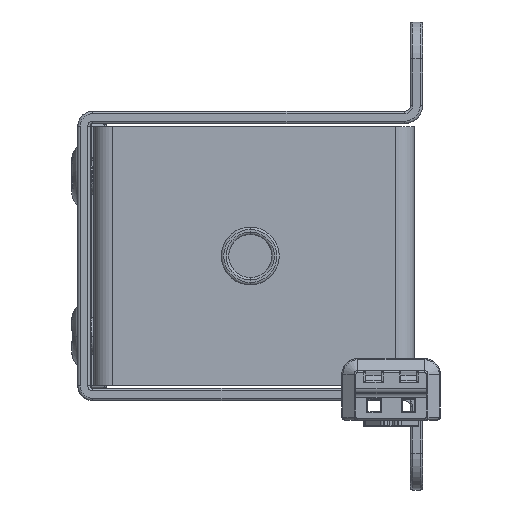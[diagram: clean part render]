
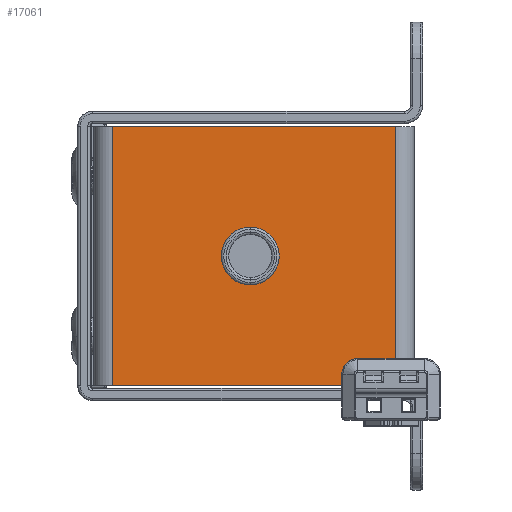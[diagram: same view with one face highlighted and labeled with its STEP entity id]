
A CAD part, left-side view. The second image highlights one B-rep face of the part: STEP entity #17061.
In plain terms, the highlighted planar face has unit normal (-1, 0, 0).
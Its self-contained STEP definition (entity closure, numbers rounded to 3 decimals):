
#12728=DIRECTION('',(0.,-1.,0.));
#12729=VECTOR('',#12728,23.);
#12730=CARTESIAN_POINT('',(-27.,25.2,-10.5));
#12731=LINE('',#12730,#12729);
#12922=DIRECTION('',(0.,-1.,0.));
#12923=VECTOR('',#12922,23.);
#12924=CARTESIAN_POINT('',(-27.,25.2,10.5));
#12925=LINE('',#12924,#12923);
#13150=DIRECTION('',(0.,0.,-1.));
#13151=VECTOR('',#13150,21.);
#13152=CARTESIAN_POINT('',(-27.,25.2,10.5));
#13153=LINE('',#13152,#13151);
#13157=DIRECTION('',(0.,0.,-1.));
#13158=VECTOR('',#13157,21.);
#13159=CARTESIAN_POINT('',(-27.,2.2,10.5));
#13160=LINE('',#13159,#13158);
#13164=CARTESIAN_POINT('',(-27.,14.,0.));
#13165=DIRECTION('',(-1.,0.,0.));
#13166=DIRECTION('',(0.,0.,1.));
#13167=AXIS2_PLACEMENT_3D('',#13164,#13165,#13166);
#13172=CARTESIAN_POINT('',(-27.,14.,0.));
#13173=DIRECTION('',(-1.,0.,0.));
#13174=DIRECTION('',(0.,0.,-1.));
#13175=AXIS2_PLACEMENT_3D('',#13172,#13173,#13174);
#16345=CARTESIAN_POINT('',(-27.,25.2,-10.5));
#16347=VERTEX_POINT('',#16345);
#16351=CARTESIAN_POINT('',(-27.,25.2,10.5));
#16352=VERTEX_POINT('',#16351);
#16354=CARTESIAN_POINT('',(-27.,2.2,-10.5));
#16356=VERTEX_POINT('',#16354);
#16357=CARTESIAN_POINT('',(-27.,2.2,10.5));
#16358=VERTEX_POINT('',#16357);
#16589=CARTESIAN_POINT('',(-27.,14.,2.35));
#16590=CARTESIAN_POINT('',(-27.,14.,-2.35));
#16591=VERTEX_POINT('',#16589);
#16592=VERTEX_POINT('',#16590);
#17043=CARTESIAN_POINT('',(-27.,26.7,-10.5));
#17044=DIRECTION('',(-1.,0.,0.));
#17045=DIRECTION('',(0.,-1.,0.));
#17046=AXIS2_PLACEMENT_3D('',#17043,#17044,#17045);
#17047=PLANE('',#17046);
#17048=ORIENTED_EDGE('',*,*,#17031,.F.);
#17049=ORIENTED_EDGE('',*,*,#16833,.T.);
#17051=ORIENTED_EDGE('',*,*,#17050,.T.);
#17052=ORIENTED_EDGE('',*,*,#16636,.F.);
#17053=EDGE_LOOP('',(#17048,#17049,#17051,#17052));
#17054=FACE_OUTER_BOUND('',#17053,.F.);
#17056=ORIENTED_EDGE('',*,*,#17055,.T.);
#17058=ORIENTED_EDGE('',*,*,#17057,.T.);
#17059=EDGE_LOOP('',(#17056,#17058));
#17060=FACE_BOUND('',#17059,.F.);
#17061=ADVANCED_FACE('',(#17054,#17060),#17047,.T.);
#13168=CIRCLE('',#13167,2.35);
#13176=CIRCLE('',#13175,2.35);
#16636=EDGE_CURVE('',#16347,#16356,#12731,.T.);
#16833=EDGE_CURVE('',#16352,#16358,#12925,.T.);
#17031=EDGE_CURVE('',#16352,#16347,#13153,.T.);
#17050=EDGE_CURVE('',#16358,#16356,#13160,.T.);
#17055=EDGE_CURVE('',#16591,#16592,#13168,.T.);
#17057=EDGE_CURVE('',#16592,#16591,#13176,.T.);
